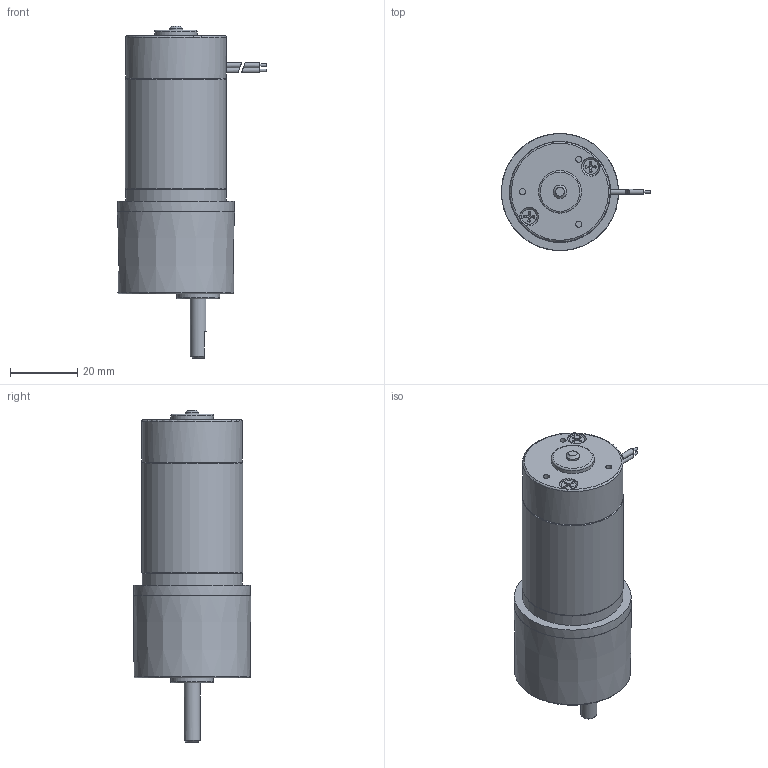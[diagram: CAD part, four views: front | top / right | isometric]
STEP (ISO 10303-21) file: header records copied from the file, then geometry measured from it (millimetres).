
FILE_DESCRIPTION((''),'2;1');
FILE_NAME('Z:\4_DC\새 폴더\RS3 SERIES\RS32ㅁㅁL(V,W).stp','2015-02-12T15:55:32',('kdhkdh'),(''),'Autodesk Inventor 2013','Autodesk Inventor 2013','');
FILE_SCHEMA(('AUTOMOTIVE_DESIGN { 1 0 10303 214 1 1 1 1 }'));
Length unit declared in the file: millimetre
Products named in the file (1): 부품2
Bounding box: 44.28 x 34.74 x 98.49 mm (x, y, z)
Volume: 60970.1 mm3; surface area: 10481.8 mm2
Topology: 2 solids, 7 shells, 203 faces, 500 edges, 325 vertices
Faces by surface type: plane 76, cylinder 60, cone 43, torus 24
Full cylindrical faces by diameter (mm): 0.76 x2, 1.56 x4, 1.8 x3, 2.156 x3, 2.5 x5, 2.6 x2, 2.7 x3, 4 x1, 4.4 x5, 4.76 x1, 5.5 x5, 12.7 x2, 29.8 x2, 30 x1, 34.7 x1
Entity records: 6114 total; most frequent: CARTESIAN_POINT 1753, DIRECTION 842, ORIENTED_EDGE 818, EDGE_CURVE 409, AXIS2_PLACEMENT_3D 377, VERTEX_POINT 296, EDGE_LOOP 290, FACE_OUTER_BOUND 203
